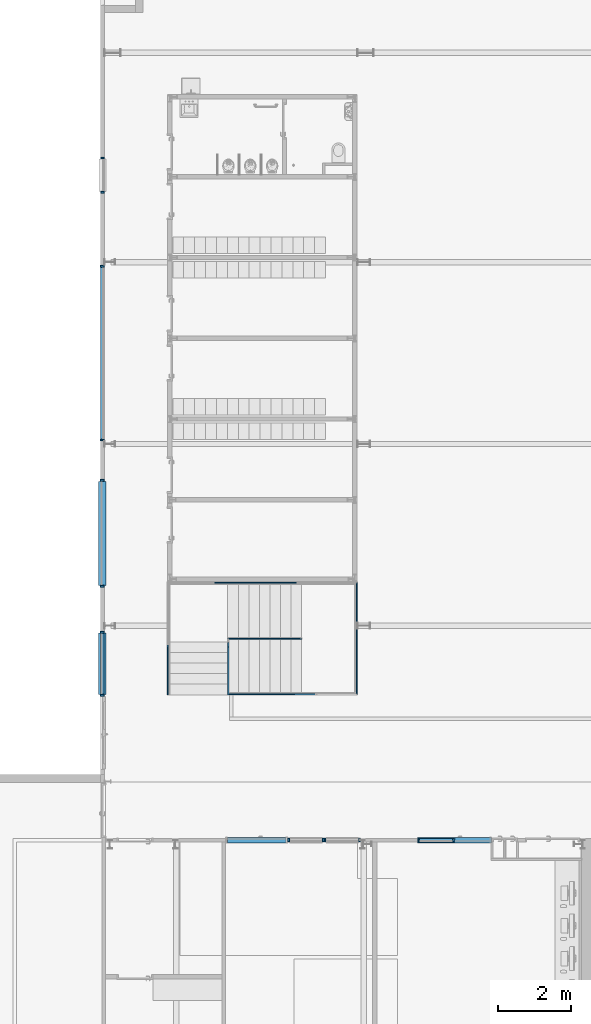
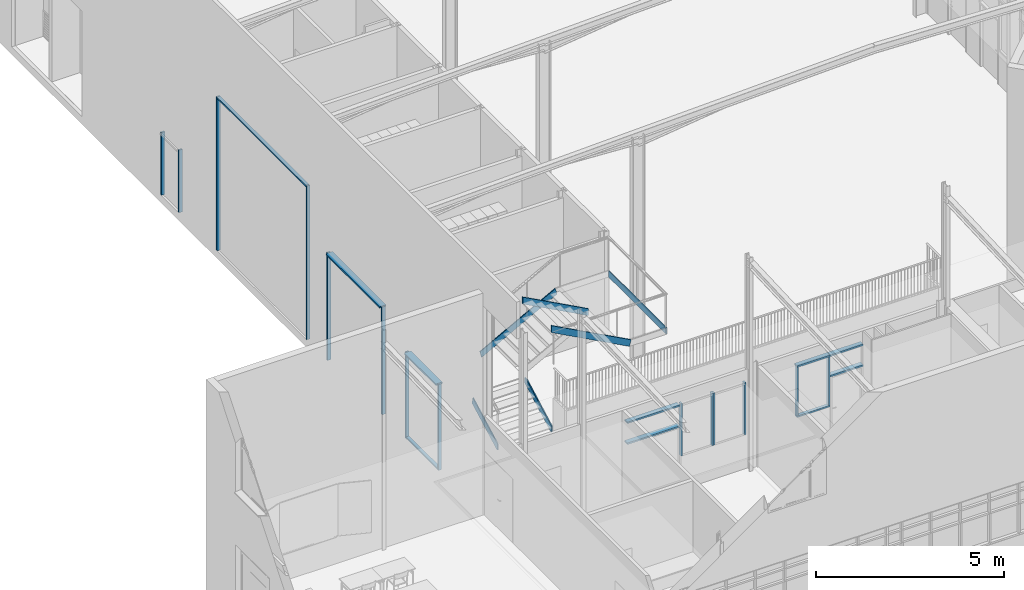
# One storey, part 11 of 137: 30 members, 9 elements without a shape of their own.
"""IFC2X3 building model written with IfcOpenShell, lengths in centimetres."""

from ifc_helpers import new_model, entity, si_unit, converted_unit, derived_unit, direction, frame, frame_2d, origin, origin_2d_with_axis, place, context, subcontext, project, spatial, polyline, rectangle, outline, extrude, material, type_object, element, aggregate, save


model = new_model("IFC2X3")

# Units and contexts
model_context = context("Model", 3, precision=0.001, world=origin(), true_north=direction((6.12303176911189e-17, 1.0)))
body_context = subcontext(model_context, "Body", "Model", "MODEL_VIEW")
ifc_project = project(units=[si_unit("LENGTHUNIT", "METRE", prefix="CENTI"), si_unit("AREAUNIT", "SQUARE_METRE"), si_unit("VOLUMEUNIT", "CUBIC_METRE"), converted_unit("PLANEANGLEUNIT", "DEGREE", entity("IfcRatioMeasure", 0.0174532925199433), si_unit("PLANEANGLEUNIT", "RADIAN"), dimensions=[0, 0, 0, 0, 0, 0, 0]), si_unit("MASSUNIT", "GRAM", prefix="KILO"), si_unit("TIMEUNIT", "SECOND"), si_unit("FREQUENCYUNIT", "HERTZ"), si_unit("THERMODYNAMICTEMPERATUREUNIT", "DEGREE_CELSIUS"), derived_unit("THERMALTRANSMITTANCEUNIT", [(si_unit("MASSUNIT", "GRAM", prefix="KILO"), 1), (si_unit("THERMODYNAMICTEMPERATUREUNIT", "KELVIN"), -1), (si_unit("TIMEUNIT", "SECOND"), -3)]), derived_unit("VOLUMETRICFLOWRATEUNIT", [(si_unit("LENGTHUNIT", "METRE"), 3), (si_unit("TIMEUNIT", "SECOND"), -1)]), si_unit("ELECTRICCURRENTUNIT", "AMPERE"), si_unit("ELECTRICVOLTAGEUNIT", "VOLT"), si_unit("POWERUNIT", "WATT"), si_unit("FORCEUNIT", "NEWTON", prefix="KILO"), si_unit("ILLUMINANCEUNIT", "LUX"), si_unit("LUMINOUSFLUXUNIT", "LUMEN"), si_unit("LUMINOUSINTENSITYUNIT", "CANDELA"), derived_unit("USERDEFINED", [(si_unit("MASSUNIT", "GRAM", prefix="KILO"), -1), (si_unit("LENGTHUNIT", "METRE"), -2), (si_unit("TIMEUNIT", "SECOND"), 3), (si_unit("LUMINOUSFLUXUNIT", "LUMEN"), 1)]), derived_unit("LINEARVELOCITYUNIT", [(si_unit("LENGTHUNIT", "METRE"), 1), (si_unit("TIMEUNIT", "SECOND"), -1)]), si_unit("PRESSUREUNIT", "PASCAL"), derived_unit("USERDEFINED", [(si_unit("LENGTHUNIT", "METRE"), -2), (si_unit("MASSUNIT", "GRAM", prefix="KILO"), 1), (si_unit("TIMEUNIT", "SECOND"), -2)])], contexts=[model_context])

# Site, building, storey
site_placement = place(None, frame((8.62739174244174, -249.285249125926, 0.0)))
site = spatial("IfcSite", under=ifc_project, at=site_placement, Name="Default", CompositionType="ELEMENT")
building_placement = place(site_placement, origin())
building = spatial("IfcBuilding", under=site, at=building_placement, CompositionType="ELEMENT")
storey_placement = place(building_placement, origin())
storey = spatial("IfcBuildingStorey", under=building, at=storey_placement, Name="RDC", CompositionType="ELEMENT", Elevation=-8.82465566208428e-11)

# Stair, members
stair_placement = place(storey_placement, origin())
stair = element("IfcStair", 1, at=stair_placement, inside=storey, Name="Escalier assemblé:Escalier", ObjectType="Escalier assemblé:Escalier métallique", ShapeType="NOTDEFINED")
ifc_material_1 = material(Name="Acier, 45-345")
member_type = type_object("IfcMemberType", Name="Limon à la française:Limon à la française - 30 mm", PredefinedType="STRINGER")
member_1_placement = place(stair_placement, origin())
member_1 = element("IfcMember", 2, at=member_1_placement, type_object=member_type, material=ifc_material_1, Name="Escalier assemblé:Escalier:1434872 Stringer 1", ObjectType="Escalier assemblé:Escalier métallique", context=body_context, shape_type="SweptSolid", body=[
    extrude(outline(polyline([(-54.8284903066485, -36.159604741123), (-49.248315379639, -36.159604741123), (81.9703435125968, 34.3858498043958), (76.9349524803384, 54.3858498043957), (-54.8284903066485, -16.4524901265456), (-54.8284903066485, -36.159604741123)])), frame((1023.90482780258, 1227.32869837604, 36.1596047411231), z_axis=(1.0, 0.0, 0.0), x_axis=(0.0, 1.0, 0.0)), (0.0, 0.0, 1.0), 2.99999999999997),
])
member_2_placement = place(stair_placement, origin())
member_2 = element("IfcMember", 3, at=member_2_placement, type_object=member_type, material=ifc_material_1, Name="Escalier assemblé:Escalier:1434872 Stringer 2", ObjectType="Escalier assemblé:Escalier métallique", context=body_context, shape_type="SweptSolid", body=[
    extrude(outline(polyline([(-71.223936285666, -45.9587615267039), (-65.6437613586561, -45.9587615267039), (73.776063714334, 28.9957839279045), (73.776063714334, 44.5866930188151), (60.5395065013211, 44.5866930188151), (-71.223936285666, -26.2516469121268), (-71.223936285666, -45.9587615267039)])), frame((1189.95417064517, 1243.72414435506, 45.958761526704), z_axis=(1.0, 0.0, 0.0), x_axis=(0.0, 1.0, 0.0)), (0.0, 0.0, 1.0), 2.99999999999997),
])
member_3_placement = place(stair_placement, origin())
member_3 = element("IfcMember", 4, at=member_3_placement, type_object=member_type, material=ifc_material_1, Name="Escalier assemblé:Escalier:1434872 Stringer 3", ObjectType="Escalier assemblé:Escalier métallique", context=body_context, shape_type="SweptSolid", body=[
    extrude(outline(polyline([(-129.183569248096, -10.0), (134.218960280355, -10.0), (129.183569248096, 10.0), (-134.218960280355, 10.0), (-129.183569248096, -10.0)])), frame((1266.1859661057, 1479.50020806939, 142.909090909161), z_axis=(0.0, 1.0, 0.0), x_axis=(0.880781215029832, 0.0, 0.473523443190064)), (0.0, 0.0, 1.0), 2.99999999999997),
])
member_4_placement = place(stair_placement, origin())
member_4 = element("IfcMember", 5, at=member_4_placement, type_object=member_type, material=ifc_material_1, Name="Escalier assemblé:Escalier:1434872 Stringer 7", ObjectType="Escalier assemblé:Escalier métallique", context=body_context, shape_type="SweptSolid", body=[
    extrude(outline(polyline([(-140.303820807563, -10.0), (132.409949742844, -10.0), (143.162300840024, 10.0), (-135.268429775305, 10.0), (-140.303820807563, -10.0)])), frame((1311.26425865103, 1172.50020806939, 270.517687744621), z_axis=(0.0, 1.0, 0.0), x_axis=(-0.880781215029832, 0.0, 0.473523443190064)), (0.0, 0.0, 1.0), 2.99999999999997),
])
member_5_placement = place(stair_placement, origin())
member_5 = element("IfcMember", 6, at=member_5_placement, type_object=member_type, material=ifc_material_1, Name="Escalier assemblé:Escalier:1434872 Stringer 8", ObjectType="Escalier assemblé:Escalier métallique", context=body_context, shape_type="SweptSolid", body=[
    extrude(outline(polyline([(-120.614782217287, -10.0), (109.862431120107, -10.0), (120.614782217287, 10.0), (-109.862431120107, 10.0), (-120.614782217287, -10.0)])), frame((1291.40482780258, 1325.50020806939, 281.194466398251), z_axis=(0.0, 1.0, 0.0), x_axis=(-0.880781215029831, 0.0, 0.473523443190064)), (0.0, 0.0, 1.0), 2.99999999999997),
])
member_6_placement = place(stair_placement, origin())
member_6 = element("IfcMember", 7, at=member_6_placement, type_object=member_type, material=ifc_material_1, Name="Escalier assemblé:Escalier:1434872 Stringer 10", ObjectType="Escalier assemblé:Escalier métallique", context=body_context, shape_type="SweptSolid", body=[
    extrude(outline(polyline([(-155.0, -1.50000000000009), (155.0, -1.50000000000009), (152.0, 1.49999999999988), (-152.0, 1.49999999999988), (-155.0, -1.50000000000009)])), frame((1544.40482780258, 1327.50020806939, 195.272727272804), z_axis=(0.0, 0.0, 1.0), x_axis=(0.0, 1.0, 0.0)), (0.0, 0.0, 1.0), 20.0),
])
aggregate(stair, [member_1, member_2, member_3, member_4, member_5, member_6])

# Curtain wall, members
curtain_wall_type = type_object("IfcCurtainWallType", Name="Mur-rideau:Simple panneau", PredefinedType="NOTDEFINED")
curtain_wall_1_placement = place(storey_placement, origin())
curtain_wall_1 = element("IfcCurtainWall", 8, at=curtain_wall_1_placement, inside=storey, type_object=curtain_wall_type, Name="Mur-rideau:Simple panneau", ObjectType="Mur-rideau:Simple panneau")
ifc_material_2 = material(Name="Plastique, blanc opaque")
member_7_placement = place(curtain_wall_1_placement, origin())
member_7 = element("IfcMember", 9, at=member_7_placement, material=ifc_material_2, Name="Mur-rideau:Simple panneau", ObjectType="Mur-rideau:Simple panneau", context=body_context, shape_type="SweptSolid", body=[
    extrude(rectangle(XDim=10.0000000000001, YDim=4.99999999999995, at=frame_2d((0.0, 1.08357767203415e-13), x_axis=(1.0, 0.0))), frame((844.904827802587, 1344.48020806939, 0.0), z_axis=(0.0, 0.0, 1.0), x_axis=(-1.0, 0.0, 0.0)), (0.0, 0.0, 1.0), 280.0),
])
member_8_placement = place(curtain_wall_1_placement, origin())
member_8 = element("IfcMember", 10, at=member_8_placement, material=ifc_material_2, Name="Mur-rideau:Simple panneau", ObjectType="Mur-rideau:Simple panneau", context=body_context, shape_type="SweptSolid", body=[
    extrude(rectangle(XDim=5.0, YDim=10.0000000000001, at=origin_2d_with_axis()), frame((844.904827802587, 1173.98020806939, 2.5000000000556), z_axis=(0.0, 1.0, 0.0), x_axis=(0.0, 0.0, -1.0)), (0.0, 0.0, 1.0), 167.999999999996),
])
member_9_placement = place(curtain_wall_1_placement, origin())
member_9 = element("IfcMember", 11, at=member_9_placement, material=ifc_material_2, Name="Mur-rideau:Simple panneau", ObjectType="Mur-rideau:Simple panneau", context=body_context, shape_type="SweptSolid", body=[
    extrude(rectangle(XDim=5.0, YDim=20.0, at=frame_2d((-2.70894418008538e-14, 1.08357767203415e-13), x_axis=(1.0, 0.0))), frame((844.904827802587, 1341.98020806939, 277.500000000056), z_axis=(0.0, -1.0, 0.0), x_axis=(0.0, 0.0, -1.0)), (0.0, 0.0, 1.0), 167.999999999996),
])
member_10_placement = place(curtain_wall_1_placement, origin())
member_10 = element("IfcMember", 12, at=member_10_placement, material=ifc_material_2, Name="Mur-rideau:Simple panneau", ObjectType="Mur-rideau:Simple panneau", context=body_context, shape_type="SweptSolid", body=[
    extrude(rectangle(XDim=10.0000000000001, YDim=4.99999999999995, at=frame_2d((-1.08357767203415e-13, -1.08357767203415e-13), x_axis=(1.0, 0.0))), frame((844.904827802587, 1171.48020806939, 280.0), z_axis=(0.0, 0.0, -1.0), x_axis=(-1.0, 0.0, 0.0)), (0.0, 0.0, 1.0), 280.0),
])
aggregate(curtain_wall_1, [member_7, member_8, member_9, member_10])

curtain_wall_2_placement = place(storey_placement, origin())
curtain_wall_2 = element("IfcCurtainWall", 13, at=curtain_wall_2_placement, inside=storey, type_object=curtain_wall_type, Name="Mur-rideau:Simple panneau", ObjectType="Mur-rideau:Simple panneau")
member_11_placement = place(curtain_wall_2_placement, origin())
member_11 = element("IfcMember", 14, at=member_11_placement, material=ifc_material_2, Name="Mur-rideau:Simple panneau:661", ObjectType="Mur-rideau:Simple panneau:661", context=body_context, shape_type="SweptSolid", body=[
    extrude(rectangle(XDim=5.0, YDim=15.0000000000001, at=frame_2d((-2.70894418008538e-14, 9.74331726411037e-13), x_axis=(1.0, 0.0))), frame((1711.90482780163, 773.0, 277.500000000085), z_axis=(1.0, 0.0, 0.0), x_axis=(0.0, 0.0, -1.0)), (0.0, 0.0, 1.0), 99.4999999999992),
])
member_12_placement = place(curtain_wall_2_placement, origin())
member_12 = element("IfcMember", 15, at=member_12_placement, material=ifc_material_2, Name="Mur-rideau:Simple panneau", ObjectType="Mur-rideau:Simple panneau", context=body_context, shape_type="SweptSolid", body=[
    extrude(rectangle(XDim=4.99999999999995, YDim=10.0, at=frame_2d((-1.08357767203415e-13, -5.41788836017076e-14), x_axis=(1.0, 0.0))), frame((1714.40482780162, 773.0, 115.0), z_axis=(0.0, 0.0, 1.0), x_axis=(-1.0, 0.0, 0.0)), (0.0, 0.0, 1.0), 160.0),
])
member_13_placement = place(curtain_wall_2_placement, origin())
member_13 = element("IfcMember", 16, at=member_13_placement, material=ifc_material_2, Name="Mur-rideau:Simple panneau:661", ObjectType="Mur-rideau:Simple panneau:661", context=body_context, shape_type="SweptSolid", body=[
    extrude(rectangle(XDim=5.0, YDim=15.0000000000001, at=frame_2d((0.0, 1.08268949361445e-12), x_axis=(1.0, 0.0))), frame((1914.90482780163, 773.0, 210.500000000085), z_axis=(-1.0, 0.0, 0.0), x_axis=(0.0, 0.0, -1.0)), (0.0, 0.0, 1.0), 101.0),
])
member_14_placement = place(curtain_wall_2_placement, origin())
member_14 = element("IfcMember", 17, at=member_14_placement, material=ifc_material_2, Name="Mur-rideau:Simple panneau:661", ObjectType="Mur-rideau:Simple panneau:661", context=body_context, shape_type="SweptSolid", body=[
    extrude(rectangle(XDim=5.0, YDim=15.0000000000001, at=frame_2d((-2.70894418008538e-14, 1.19104726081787e-12), x_axis=(1.0, 0.0))), frame((1811.40482780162, 773.0, 277.500000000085), z_axis=(1.0, 0.0, 0.0), x_axis=(0.0, 0.0, -1.0)), (0.0, 0.0, 1.0), 103.500000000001),
])
member_15_placement = place(curtain_wall_2_placement, origin())
member_15 = element("IfcMember", 18, at=member_15_placement, material=ifc_material_2, Name="Mur-rideau:Simple panneau", ObjectType="Mur-rideau:Simple panneau", context=body_context, shape_type="SweptSolid", body=[
    extrude(rectangle(XDim=5.00000000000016, YDim=9.99999999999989, at=frame_2d((0.0, -1.08357767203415e-13), x_axis=(1.0, 0.0))), frame((1811.40482780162, 773.0, 115.0), z_axis=(0.0, 0.0, 1.0), x_axis=(-1.0, 0.0, 0.0)), (0.0, 0.0, 1.0), 160.0),
])
member_16_placement = place(curtain_wall_2_placement, origin())
member_16 = element("IfcMember", 19, at=member_16_placement, material=ifc_material_2, Name="Mur-rideau:Simple panneau", ObjectType="Mur-rideau:Simple panneau", context=body_context, shape_type="SweptSolid", body=[
    extrude(rectangle(XDim=5.0, YDim=9.99999999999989, at=frame_2d((0.0, 1.0831335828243e-12), x_axis=(1.0, 0.0))), frame((1813.90482780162, 773.0, 112.500000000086), z_axis=(-1.0, 0.0, 0.0), x_axis=(0.0, 0.0, -1.0)), (0.0, 0.0, 1.0), 101.999999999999),
])
aggregate(curtain_wall_2, [member_11, member_12, member_13, member_14, member_15, member_16])

curtain_wall_3_placement = place(storey_placement, origin())
curtain_wall_3 = element("IfcCurtainWall", 20, at=curtain_wall_3_placement, inside=storey, type_object=curtain_wall_type, Name="Mur-rideau:Simple panneau", ObjectType="Mur-rideau:Simple panneau")
member_17_placement = place(curtain_wall_3_placement, origin())
member_17 = element("IfcMember", 21, at=member_17_placement, material=ifc_material_2, Name="Mur-rideau:Simple panneau", ObjectType="Mur-rideau:Simple panneau", context=body_context, shape_type="SweptSolid", body=[
    extrude(rectangle(XDim=4.99999999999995, YDim=9.99999999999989, at=frame_2d((-1.08357767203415e-13, 0.0), x_axis=(1.0, 0.0))), frame((1552.40482780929, 773.0, 280.0), z_axis=(0.0, 0.0, -1.0), x_axis=(-1.0, 0.0, 0.0)), (0.0, 0.0, 1.0), 170.0),
])
member_18_placement = place(curtain_wall_3_placement, origin())
member_18 = element("IfcMember", 22, at=member_18_placement, material=ifc_material_2, Name="Mur-rideau:Simple panneau", ObjectType="Mur-rideau:Simple panneau", context=body_context, shape_type="SweptSolid", body=[
    extrude(rectangle(XDim=4.99999999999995, YDim=10.0, at=frame_2d((1.08357767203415e-13, 5.41788836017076e-14), x_axis=(1.0, 0.0))), frame((1457.40482780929, 773.0, 110.0), z_axis=(0.0, 0.0, 1.0), x_axis=(-1.0, 0.0, 0.0)), (0.0, 0.0, 1.0), 170.0),
])
aggregate(curtain_wall_3, [member_17, member_18])

curtain_wall_4_placement = place(storey_placement, origin())
curtain_wall_4 = element("IfcCurtainWall", 23, at=curtain_wall_4_placement, inside=storey, type_object=curtain_wall_type, Name="Mur-rideau:Simple panneau", ObjectType="Mur-rideau:Simple panneau")
member_19_placement = place(curtain_wall_4_placement, origin())
member_19 = element("IfcMember", 24, at=member_19_placement, material=ifc_material_2, Name="Mur-rideau:Simple panneau", ObjectType="Mur-rideau:Simple panneau", context=body_context, shape_type="SweptSolid", body=[
    extrude(rectangle(XDim=4.99999999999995, YDim=9.99999999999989, at=frame_2d((1.08357767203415e-13, 0.0), x_axis=(1.0, 0.0))), frame((1452.40482780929, 773.0, 280.0), z_axis=(0.0, 0.0, -1.0), x_axis=(-1.0, 0.0, 0.0)), (0.0, 0.0, 1.0), 170.0),
])
member_20_placement = place(curtain_wall_4_placement, origin())
member_20 = element("IfcMember", 25, at=member_20_placement, material=ifc_material_2, Name="Mur-rideau:Simple panneau", ObjectType="Mur-rideau:Simple panneau", context=body_context, shape_type="SweptSolid", body=[
    extrude(rectangle(XDim=4.99999999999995, YDim=10.0, at=frame_2d((-1.08357767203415e-13, 5.41788836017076e-14), x_axis=(1.0, 0.0))), frame((1357.40482780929, 773.0, 110.0), z_axis=(0.0, 0.0, 1.0), x_axis=(-1.0, 0.0, 0.0)), (0.0, 0.0, 1.0), 170.0),
])
aggregate(curtain_wall_4, [member_19, member_20])

curtain_wall_5_placement = place(storey_placement, origin())
curtain_wall_5 = element("IfcCurtainWall", 26, at=curtain_wall_5_placement, inside=storey, type_object=curtain_wall_type, Name="Mur-rideau:Simple panneau", ObjectType="Mur-rideau:Simple panneau")
member_21_placement = place(curtain_wall_5_placement, origin())
member_21 = element("IfcMember", 27, at=member_21_placement, material=ifc_material_2, Name="Mur-rideau:Simple panneau:661", ObjectType="Mur-rideau:Simple panneau:661", context=body_context, shape_type="SweptSolid", body=[
    extrude(rectangle(XDim=5.0, YDim=15.0000000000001, at=frame_2d((2.70894418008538e-14, 5.41788836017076e-13), x_axis=(1.0, 0.0))), frame((1349.90482780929, 773.0, 277.500000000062), z_axis=(-1.0, 0.0, 0.0), x_axis=(0.0, 0.0, -1.0)), (0.0, 0.0, 1.0), 161.0),
])
member_22_placement = place(curtain_wall_5_placement, origin())
member_22 = element("IfcMember", 28, at=member_22_placement, material=ifc_material_2, Name="Mur-rideau:Simple panneau:661", ObjectType="Mur-rideau:Simple panneau:661", context=body_context, shape_type="SweptSolid", body=[
    extrude(rectangle(XDim=5.0, YDim=15.0000000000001, at=frame_2d((0.0, 5.41788836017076e-13), x_axis=(1.0, 0.0))), frame((1188.90482780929, 773.0, 209.500000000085), z_axis=(1.0, 0.0, 0.0), x_axis=(0.0, 0.0, -1.0)), (0.0, 0.0, 1.0), 161.0),
])
aggregate(curtain_wall_5, [member_21, member_22])

curtain_wall_6_placement = place(storey_placement, origin())
curtain_wall_6 = element("IfcCurtainWall", 29, at=curtain_wall_6_placement, inside=storey, type_object=curtain_wall_type, Name="Mur-rideau:Simple panneau", ObjectType="Mur-rideau:Simple panneau")
member_23_placement = place(curtain_wall_6_placement, origin())
member_23 = element("IfcMember", 30, at=member_23_placement, material=ifc_material_2, Name="Mur-rideau:Simple panneau", ObjectType="Mur-rideau:Simple panneau", context=body_context, shape_type="SweptSolid", body=[
    extrude(rectangle(XDim=10.0, YDim=5.00000000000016, at=frame_2d((5.41788836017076e-14, 2.16715534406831e-13), x_axis=(1.0, 0.0))), frame((845.404827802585, 2647.98020806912, 204.0), z_axis=(0.0, 0.0, -1.0), x_axis=(-1.0, 0.0, 0.0)), (0.0, 0.0, 1.0), 203.999999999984),
])
member_24_placement = place(curtain_wall_6_placement, origin())
member_24 = element("IfcMember", 31, at=member_24_placement, material=ifc_material_2, Name="Mur-rideau:Simple panneau", ObjectType="Mur-rideau:Simple panneau", context=body_context, shape_type="SweptSolid", body=[
    extrude(rectangle(XDim=10.0000000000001, YDim=5.00000000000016, at=frame_2d((-1.08357767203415e-13, -2.16715534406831e-13), x_axis=(1.0, 0.0))), frame((845.404827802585, 2553.98020806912, 0.0), z_axis=(0.0, 0.0, 1.0), x_axis=(-1.0, 0.0, 0.0)), (0.0, 0.0, 1.0), 203.999999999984),
])
aggregate(curtain_wall_6, [member_23, member_24])

curtain_wall_7_placement = place(storey_placement, origin())
curtain_wall_7 = element("IfcCurtainWall", 32, at=curtain_wall_7_placement, inside=storey, type_object=curtain_wall_type, Name="Mur-rideau:Simple panneau", ObjectType="Mur-rideau:Simple panneau")
member_25_placement = place(curtain_wall_7_placement, origin())
member_25 = element("IfcMember", 33, at=member_25_placement, material=ifc_material_2, Name="Mur-rideau:Simple panneau", ObjectType="Mur-rideau:Simple panneau", context=body_context, shape_type="SweptSolid", body=[
    extrude(rectangle(XDim=10.0000000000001, YDim=4.99999999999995, at=frame_2d((-1.08357767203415e-13, 1.08357767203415e-13), x_axis=(1.0, 0.0))), frame((844.904827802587, 1761.98020806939, 350.0), z_axis=(0.0, 0.0, -1.0), x_axis=(-1.0, 0.0, 0.0)), (0.0, 0.0, 1.0), 349.999999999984),
])
member_26_placement = place(curtain_wall_7_placement, origin())
member_26 = element("IfcMember", 34, at=member_26_placement, material=ifc_material_2, Name="Mur-rideau:Simple panneau", ObjectType="Mur-rideau:Simple panneau", context=body_context, shape_type="SweptSolid", body=[
    extrude(rectangle(XDim=5.0, YDim=20.0, at=frame_2d((2.70894418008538e-14, 1.08357767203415e-13), x_axis=(1.0, 0.0))), frame((844.904827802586, 1473.48020806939, 347.500000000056), z_axis=(0.0, 1.0, 0.0), x_axis=(0.0, 0.0, -1.0)), (0.0, 0.0, 1.0), 286.0),
])
member_27_placement = place(curtain_wall_7_placement, origin())
member_27 = element("IfcMember", 35, at=member_27_placement, material=ifc_material_2, Name="Mur-rideau:Simple panneau", ObjectType="Mur-rideau:Simple panneau", context=body_context, shape_type="SweptSolid", body=[
    extrude(rectangle(XDim=10.0000000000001, YDim=4.99999999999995, at=frame_2d((-1.08357767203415e-13, -1.08357767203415e-13), x_axis=(1.0, 0.0))), frame((844.904827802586, 1470.98020806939, 0.0), z_axis=(0.0, 0.0, 1.0), x_axis=(-1.0, 0.0, 0.0)), (0.0, 0.0, 1.0), 349.999999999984),
])
aggregate(curtain_wall_7, [member_25, member_26, member_27])

curtain_wall_8_placement = place(storey_placement, origin())
curtain_wall_8 = element("IfcCurtainWall", 36, at=curtain_wall_8_placement, inside=storey, type_object=curtain_wall_type, Name="Mur-rideau:Simple panneau", ObjectType="Mur-rideau:Simple panneau")
member_28_placement = place(curtain_wall_8_placement, origin())
member_28 = element("IfcMember", 37, at=member_28_placement, material=ifc_material_2, Name="Mur-rideau:Simple panneau", ObjectType="Mur-rideau:Simple panneau", context=body_context, shape_type="SweptSolid", body=[
    extrude(rectangle(XDim=10.0000000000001, YDim=5.00000000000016, at=frame_2d((-1.08357767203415e-13, 2.16715534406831e-13), x_axis=(1.0, 0.0))), frame((844.904827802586, 2350.98020806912, 500.0), z_axis=(0.0, 0.0, -1.0), x_axis=(-1.0, 0.0, 0.0)), (0.0, 0.0, 1.0), 499.999999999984),
])
member_29_placement = place(curtain_wall_8_placement, origin())
member_29 = element("IfcMember", 38, at=member_29_placement, material=ifc_material_2, Name="Mur-rideau:Simple panneau", ObjectType="Mur-rideau:Simple panneau", context=body_context, shape_type="SweptSolid", body=[
    extrude(rectangle(XDim=4.99999999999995, YDim=9.99999999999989, at=frame_2d((0.0, -1.08357767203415e-13), x_axis=(1.0, 0.0))), frame((844.904827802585, 1875.48020806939, 497.500000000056), z_axis=(0.0, 1.0, 0.0), x_axis=(0.0, 0.0, -1.0)), (0.0, 0.0, 1.0), 472.999999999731),
])
member_30_placement = place(curtain_wall_8_placement, origin())
member_30 = element("IfcMember", 39, at=member_30_placement, material=ifc_material_2, Name="Mur-rideau:Simple panneau", ObjectType="Mur-rideau:Simple panneau", context=body_context, shape_type="SweptSolid", body=[
    extrude(rectangle(XDim=9.99999999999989, YDim=4.99999999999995, at=frame_2d((0.0, -1.08357767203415e-13), x_axis=(1.0, 0.0))), frame((844.904827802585, 1872.98020806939, 0.0), z_axis=(0.0, 0.0, 1.0), x_axis=(-1.0, 0.0, 0.0)), (0.0, 0.0, 1.0), 499.999999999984),
])
aggregate(curtain_wall_8, [member_28, member_29, member_30])

save(model, "model.ifc")
